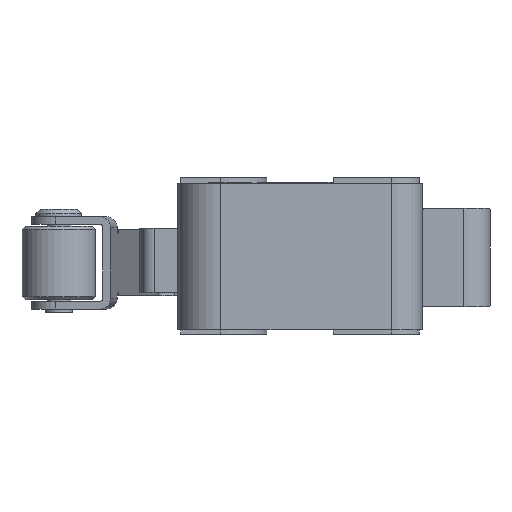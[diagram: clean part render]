
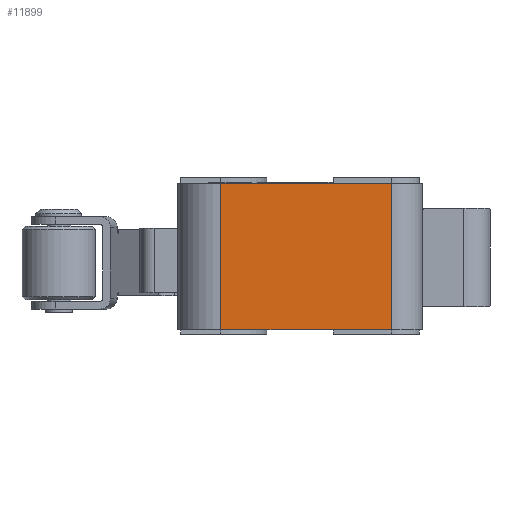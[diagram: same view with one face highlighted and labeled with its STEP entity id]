
A CAD part, left-side view. The second image highlights one B-rep face of the part: STEP entity #11899.
In plain terms, the highlighted planar face has unit normal (-1, 0, 0).
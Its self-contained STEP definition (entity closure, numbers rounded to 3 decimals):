
#17=DIRECTION('',(0.,0.,1.));
#18=VECTOR('',#17,9.5);
#19=CARTESIAN_POINT('',(-27.322,8.192,-4.7));
#20=LINE('',#19,#18);
#21=DIRECTION('',(0.,-1.,0.));
#22=VECTOR('',#21,11.1);
#23=CARTESIAN_POINT('',(-27.322,8.192,4.8));
#24=LINE('',#23,#22);
#29=DIRECTION('',(0.,0.,1.));
#30=VECTOR('',#29,9.5);
#31=CARTESIAN_POINT('',(-27.322,-2.908,-4.7));
#32=LINE('',#31,#30);
#198=DIRECTION('',(0.,-1.,0.));
#199=VECTOR('',#198,11.1);
#200=CARTESIAN_POINT('',(-27.322,8.192,-4.7));
#201=LINE('',#200,#199);
#9690=CARTESIAN_POINT('',(-27.322,-2.908,
4.8));
#9691=VERTEX_POINT('',#9690);
#9692=CARTESIAN_POINT('',(-27.322,8.192,4.8));
#9693=VERTEX_POINT('',#9692);
#11433=CARTESIAN_POINT('',(-27.322,8.192,
-4.7));
#11434=VERTEX_POINT('',#11433);
#11435=CARTESIAN_POINT('',(-27.322,-2.908,
-4.7));
#11436=VERTEX_POINT('',#11435);
#11885=CARTESIAN_POINT('',(-27.322,8.192,
2.1));
#11886=DIRECTION('',(-1.,0.,0.));
#11887=DIRECTION('',(0.,-1.,0.));
#11888=AXIS2_PLACEMENT_3D('',#11885,#11886,#11887);
#11889=PLANE('',#11888);
#11891=ORIENTED_EDGE('',*,*,#11890,.F.);
#11893=ORIENTED_EDGE('',*,*,#11892,.F.);
#11894=ORIENTED_EDGE('',*,*,#11875,.T.);
#11896=ORIENTED_EDGE('',*,*,#11895,.T.);
#11897=EDGE_LOOP('',(#11891,#11893,#11894,#11896));
#11898=FACE_OUTER_BOUND('',#11897,.F.);
#11899=ADVANCED_FACE('',(#11898),#11889,.T.);
#11875=EDGE_CURVE('',#11434,#9693,#20,.T.);
#11890=EDGE_CURVE('',#11436,#9691,#32,.T.);
#11892=EDGE_CURVE('',#11434,#11436,#201,.T.);
#11895=EDGE_CURVE('',#9693,#9691,#24,.T.);
